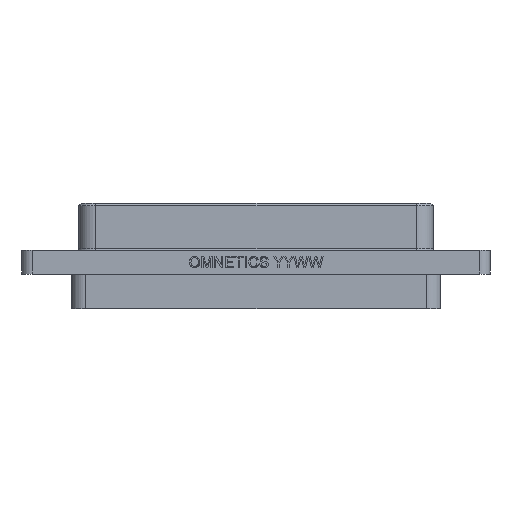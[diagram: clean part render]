
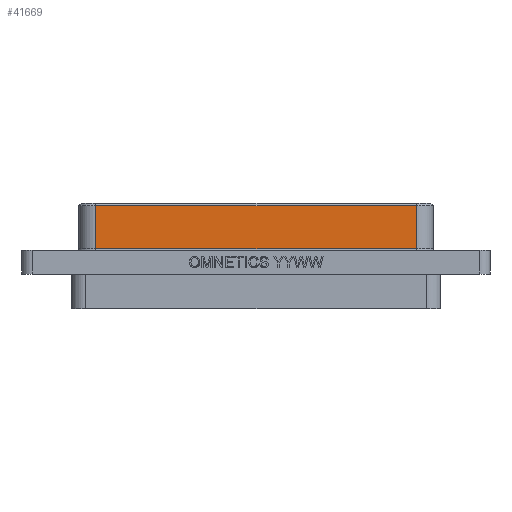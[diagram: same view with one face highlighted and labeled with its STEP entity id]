
A CAD part, front view. The second image highlights one B-rep face of the part: STEP entity #41669.
In plain terms, the highlighted planar face has unit normal (0, -1, 0).
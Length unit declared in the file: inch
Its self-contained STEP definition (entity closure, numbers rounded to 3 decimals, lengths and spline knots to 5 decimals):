
#489 = EDGE_CURVE ( 'NONE', #11655, #40811, #4980, .T. ) ;
#1468 = FACE_OUTER_BOUND ( 'NONE', #39195, .T. ) ;
#1673 = DIRECTION ( 'NONE',  ( 1., 0., 0. ) ) ;
#3318 = EDGE_CURVE ( 'NONE', #38362, #11655, #31996, .T. ) ;
#4980 = LINE ( 'NONE', #11784, #25477 ) ;
#7326 = VERTEX_POINT ( 'NONE', #9389 ) ;
#8892 = DIRECTION ( 'NONE',  ( -1., 0., 0. ) ) ;
#9389 = CARTESIAN_POINT ( 'NONE',  ( 0.625, -0.0924, 0.215 ) ) ;
#9897 = CARTESIAN_POINT ( 'NONE',  ( 0.625, -0.0924, 0.047 ) ) ;
#11655 = VERTEX_POINT ( 'NONE', #41684 ) ;
#11784 = CARTESIAN_POINT ( 'NONE',  ( 0.625, -0.0924, 0.047 ) ) ;
#12175 = LINE ( 'NONE', #39012, #34556 ) ;
#12204 = DIRECTION ( 'NONE',  ( 0., 1., 0. ) ) ;
#13315 = ORIENTED_EDGE ( 'NONE', *, *, #3318, .T. ) ;
#14792 = VECTOR ( 'NONE', #35260, 39.37008 ) ;
#15070 = DIRECTION ( 'NONE',  ( 0., 0., 1. ) ) ;
#20085 = DIRECTION ( 'NONE',  ( 0., 0., -1. ) ) ;
#20872 = EDGE_CURVE ( 'NONE', #7326, #40811, #30439, .T. ) ;
#22162 = AXIS2_PLACEMENT_3D ( 'NONE', #29006, #12204, #15070 ) ;
#22361 = VECTOR ( 'NONE', #20085, 39.37008 ) ;
#23074 = ORIENTED_EDGE ( 'NONE', *, *, #489, .T. ) ;
#24878 = PLANE ( 'NONE',  #22162 ) ;
#25477 = VECTOR ( 'NONE', #1673, 39.37008 ) ;
#26251 = ORIENTED_EDGE ( 'NONE', *, *, #33436, .T. ) ;
#27112 = CARTESIAN_POINT ( 'NONE',  ( 0.625, -0.0924, 0.225 ) ) ;
#28253 = CARTESIAN_POINT ( 'NONE',  ( -0.625, -0.0924, 0.225 ) ) ;
#29006 = CARTESIAN_POINT ( 'NONE',  ( -0.8725, -0.0924, 0.225 ) ) ;
#30439 = LINE ( 'NONE', #27112, #22361 ) ;
#31996 = LINE ( 'NONE', #28253, #14792 ) ;
#33436 = EDGE_CURVE ( 'NONE', #7326, #38362, #12175, .T. ) ;
#34556 = VECTOR ( 'NONE', #8892, 39.37008 ) ;
#35260 = DIRECTION ( 'NONE',  ( 0., 0., -1. ) ) ;
#38362 = VERTEX_POINT ( 'NONE', #42562 ) ;
#38553 = ORIENTED_EDGE ( 'NONE', *, *, #20872, .F. ) ;
#39012 = CARTESIAN_POINT ( 'NONE',  ( -0.8725, -0.0924, 0.215 ) ) ;
#39195 = EDGE_LOOP ( 'NONE', ( #13315, #23074, #38553, #26251 ) ) ;
#40811 = VERTEX_POINT ( 'NONE', #9897 ) ;
#41669 = ADVANCED_FACE ( 'NONE', ( #1468 ), #24878, .F. ) ;
#41684 = CARTESIAN_POINT ( 'NONE',  ( -0.625, -0.0924, 0.047 ) ) ;
#42562 = CARTESIAN_POINT ( 'NONE',  ( -0.625, -0.0924, 0.215 ) ) ;
